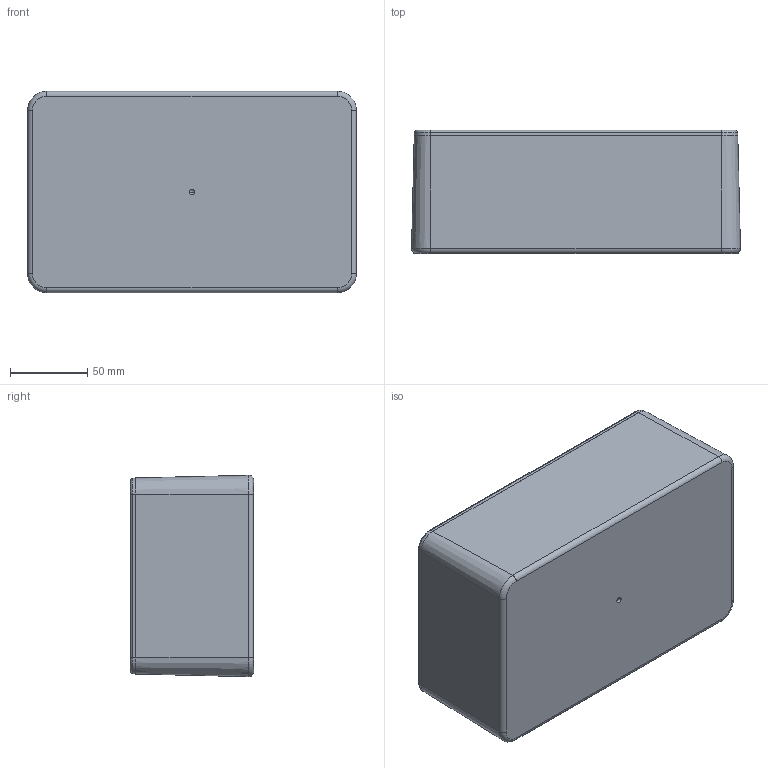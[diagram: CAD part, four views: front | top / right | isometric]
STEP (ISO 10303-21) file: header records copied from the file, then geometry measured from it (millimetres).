
FILE_DESCRIPTION (( 'STEP AP214' ), '1' );
FILE_NAME ('DC-58PMBYR_ASSEMBLY.STEP', '2010-08-23T12:17:17', ( '' ), ( '' ), 'SwSTEP 2.0', 'SolidWorks 2010', '' );
FILE_SCHEMA (( 'AUTOMOTIVE_DESIGN' ));
Length unit declared in the file: inch
Products named in the file (5): DC-58B_DC-58BPMBY; DC-58C_DC-58C-R; SCREWS-DC2-BR; DC-58B-PCB; DC-58PMBYR_ASSEMBLY
Assembly tree (9 placements, depth 2):
  DC-58PMBYR_ASSEMBLY
    SCREWS-DC2-BR  x6
    DC-58B_DC-58BPMBY
    DC-58B-PCB
    DC-58C_DC-58C-R
Bounding box: 213.36 x 79.88 x 130.68 mm (x, y, z)
Volume: 442876.5 mm3; surface area: 275024.6 mm2
Topology: 15 solids, 15 shells, 636 faces, 1493 edges, 964 vertices
Faces by surface type: plane 247, cylinder 193, cone 152, torus 28, sphere 16
Entity records: 16260 total; most frequent: DIRECTION 2709, CARTESIAN_POINT 2686, ORIENTED_EDGE 2286, EDGE_CURVE 1143, AXIS2_PLACEMENT_3D 1109, VERTEX_POINT 734, EDGE_LOOP 613, CIRCLE 596
